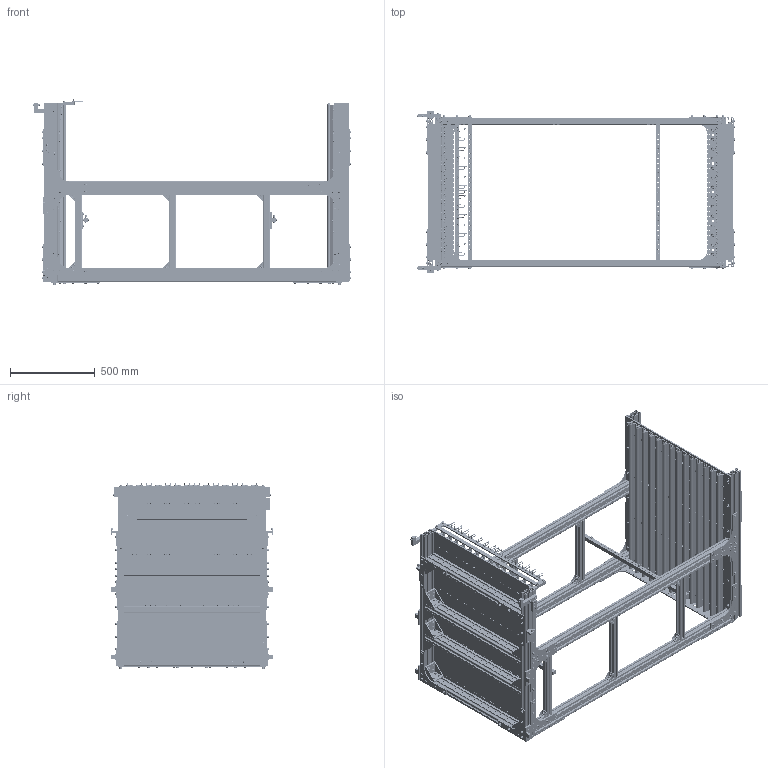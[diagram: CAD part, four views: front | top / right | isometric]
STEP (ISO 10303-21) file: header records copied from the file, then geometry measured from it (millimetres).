
FILE_DESCRIPTION(/* description */ (''),/* implementation_level */ '2;1');
FILE_NAME(/* name */ '2008_Rack.stp',/* time_stamp */ '2020-08-05T17:33:57+02:00',/* author */ (''),/* organization */ (''),/* preprocessor_version */ 'ST-DEVELOPER v16.7',/* originating_system */ 'SIEMENS PLM Software NX 1892',/* authorisation */ '');
FILE_SCHEMA (('AUTOMOTIVE_DESIGN { 1 0 10303 214 3 1 1 1 }'));
Products named in the file (1): bmas3FC851C1le3l
Bounding box: 1879.5 x 958.99 x 1100.5 mm (x, y, z)
Volume: 59805324.3 mm3; surface area: 30217096 mm2
Topology: 959 solids, 959 shells, 36167 faces, 96307 edges, 64402 vertices
Faces by surface type: plane 23391, cylinder 10476, torus 1124, cone 996, bspline 180
Full cylindrical faces by diameter (mm): 3.3 x32, 3.838 x38, 4.2 x54, 4.3 x4, 5 x470, 5.795 x224, 6.5 x54, 6.6 x560, 6.8 x70, 6.985 x2, 7 x38, 7.76 x258, 8 x1, 8.2 x154, 8.4 x44, 8.5 x34, 9 x74, 10 x224, 11 x64, 11.701 x12, 12 x28, 13 x260, 15 x18, 16 x64, 18 x172, 19 x30, 21 x28, 24 x12, 30 x18
Entity records: 1134394 total; most frequent: CARTESIAN_POINT 220217, DIRECTION 189762, ORIENTED_EDGE 176588, EDGE_CURVE 88294, AXIS2_PLACEMENT_3D 65455, VERTEX_POINT 60632, LINE 58852, VECTOR 58852
